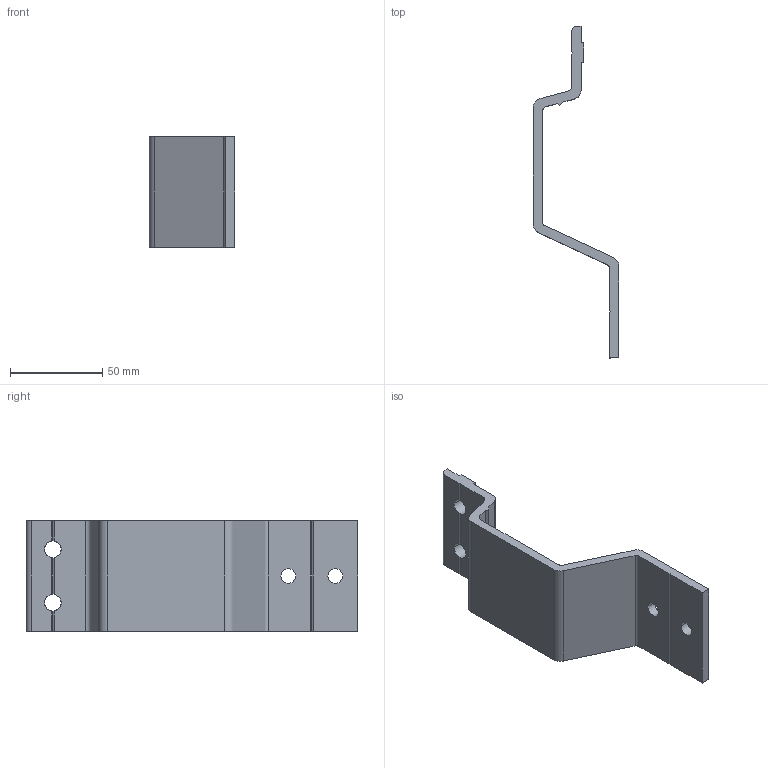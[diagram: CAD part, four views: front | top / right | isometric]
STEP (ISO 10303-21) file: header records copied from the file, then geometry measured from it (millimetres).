
FILE_DESCRIPTION (( 'STEP AP214' ), '1' );
FILE_NAME ('FAVBS 60C.step', '2017-04-05T08:00:02', ( '' ), ( '' ), 'SwSTEP 2.0', 'SolidWorks 2015', '' );
FILE_SCHEMA (( 'AUTOMOTIVE_DESIGN' ));
Length unit declared in the file: millimetre
Products named in the file (1): FAVBS 60C
Bounding box: 46.5 x 180 x 60 mm (x, y, z)
Volume: 66040.9 mm3; surface area: 29584.7 mm2
Topology: 1 solids, 1 shells, 48 faces, 144 edges, 96 vertices
Faces by surface type: plane 31, cylinder 17
Entity records: 1676 total; most frequent: CARTESIAN_POINT 313, ORIENTED_EDGE 288, DIRECTION 272, EDGE_CURVE 144, LINE 98, VECTOR 98, VERTEX_POINT 96, AXIS2_PLACEMENT_3D 87
